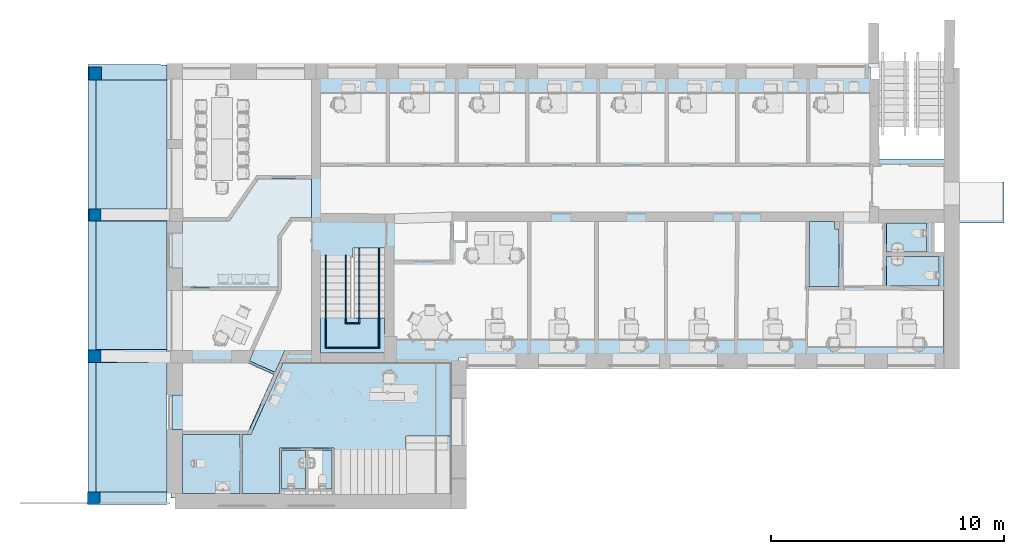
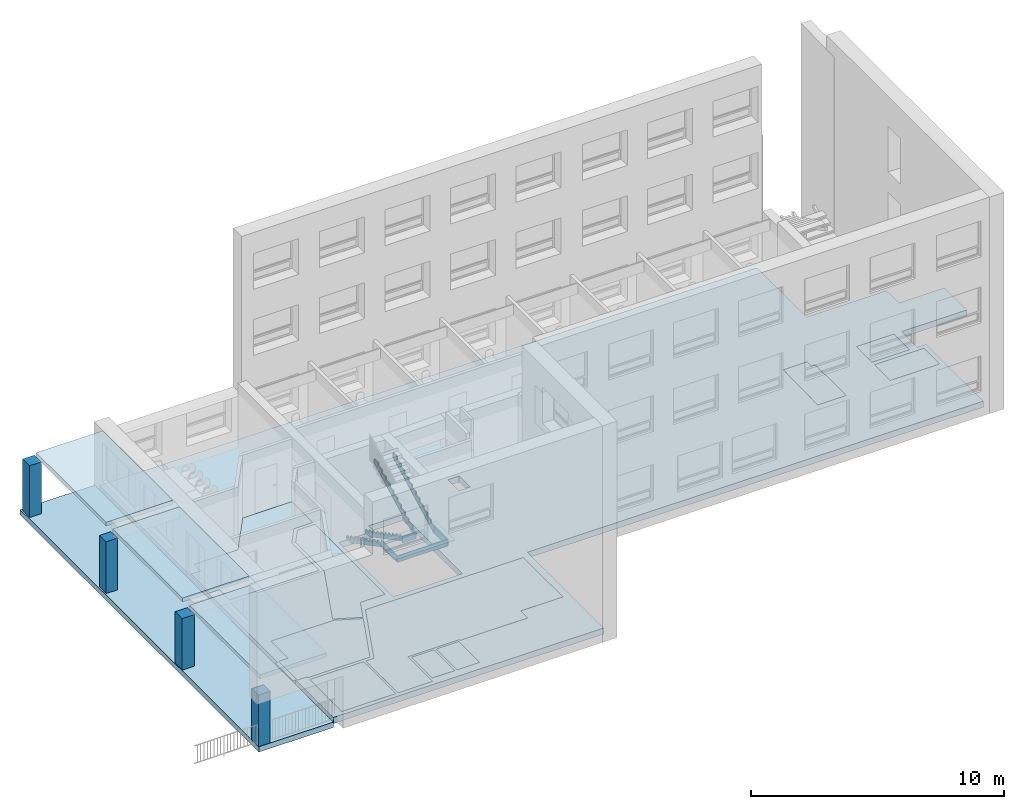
# One storey, part 1 of 25: 16 slabs, 8 members, 4 columns, 2 openings, 1 element without a shape of its own.
"""IFC2X3 building model written with IfcOpenShell, lengths in millimetres."""

from ifc_helpers import new_model, entity, si_unit, converted_unit, derived_unit, direction, frame, frame_2d, origin, origin_2d_with_axis, place, context, subcontext, project, spatial, polyline, rectangle, outline, extrude, faceted_brep, source, transform, mapped, material, layer, layer_set, layer_usage, type_object, type_shapes, element, aggregate, save


model = new_model("IFC2X3")

# Units and contexts
model_context = context("Model", 3, precision=0.01, world=origin(), true_north=direction((6.12303176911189e-17, 1.0)))
context_of_model = context(None, 3, precision=0.01, world=origin(), true_north=direction((6.12303176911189e-17, 1.0)))
body_context = subcontext(model_context, "Body", "Model", "MODEL_VIEW")
ifc_project = project(units=[si_unit("LENGTHUNIT", "METRE", prefix="MILLI"), si_unit("AREAUNIT", "SQUARE_METRE"), si_unit("VOLUMEUNIT", "CUBIC_METRE"), converted_unit("PLANEANGLEUNIT", "DEGREE", entity("IfcRatioMeasure", 0.0174532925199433), si_unit("PLANEANGLEUNIT", "RADIAN"), dimensions=[0, 0, 0, 0, 0, 0, 0]), si_unit("MASSUNIT", "GRAM", prefix="KILO"), derived_unit("MASSDENSITYUNIT", [(si_unit("MASSUNIT", "GRAM", prefix="KILO"), 1), (si_unit("LENGTHUNIT", "METRE"), -3)]), si_unit("TIMEUNIT", "SECOND"), si_unit("FREQUENCYUNIT", "HERTZ"), si_unit("THERMODYNAMICTEMPERATUREUNIT", "DEGREE_CELSIUS"), derived_unit("THERMALTRANSMITTANCEUNIT", [(si_unit("MASSUNIT", "GRAM", prefix="KILO"), 1), (si_unit("THERMODYNAMICTEMPERATUREUNIT", "KELVIN"), -1), (si_unit("TIMEUNIT", "SECOND"), -3)]), derived_unit("VOLUMETRICFLOWRATEUNIT", [(si_unit("LENGTHUNIT", "METRE"), 3), (si_unit("TIMEUNIT", "SECOND"), -1)]), si_unit("ELECTRICCURRENTUNIT", "AMPERE"), si_unit("ELECTRICVOLTAGEUNIT", "VOLT"), si_unit("POWERUNIT", "WATT"), si_unit("FORCEUNIT", "NEWTON", prefix="KILO"), si_unit("ILLUMINANCEUNIT", "LUX"), si_unit("LUMINOUSFLUXUNIT", "LUMEN"), si_unit("LUMINOUSINTENSITYUNIT", "CANDELA"), derived_unit("USERDEFINED", [(si_unit("MASSUNIT", "GRAM", prefix="KILO"), -1), (si_unit("LENGTHUNIT", "METRE"), -2), (si_unit("TIMEUNIT", "SECOND"), 3), (si_unit("LUMINOUSFLUXUNIT", "LUMEN"), 1)]), derived_unit("LINEARVELOCITYUNIT", [(si_unit("LENGTHUNIT", "METRE"), 1), (si_unit("TIMEUNIT", "SECOND"), -1)]), si_unit("PRESSUREUNIT", "PASCAL"), derived_unit("USERDEFINED", [(si_unit("LENGTHUNIT", "METRE"), -2), (si_unit("MASSUNIT", "GRAM", prefix="KILO"), 1), (si_unit("TIMEUNIT", "SECOND"), -2)])], contexts=[model_context, context_of_model])

# Site, building, storey
site_placement = place(None, frame((121442.264707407, 135347.995453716, -1800.0)))
site = spatial("IfcSite", under=ifc_project, at=site_placement, Name="Surface", CompositionType="ELEMENT")
building_placement = place(site_placement, origin())
building = spatial("IfcBuilding", under=site, at=building_placement, CompositionType="ELEMENT")
storey_placement = place(building_placement, frame((0.0, 0.0, 1800.0)))
storey = spatial("IfcBuildingStorey", under=building, at=storey_placement, Name="1 korrus", CompositionType="ELEMENT", Elevation=1800.00000000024)

# Columns
column_type_1 = type_object("IfcColumnType", Name="Columns 1", PredefinedType="COLUMN")
shared_shape_1 = source(origin(), body_context, "Body", "SweptSolid", [
    extrude(rectangle(XDim=544.202091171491, YDim=540.526809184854, at=origin_2d_with_axis()), frame((-118966.665413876, -115103.584491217, 1800.0), z_axis=(0.0, 0.0, 1.0), x_axis=(0.0, -1.0, 0.0)), (0.0, 0.0, 1.0), 2498.05502371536),
])
type_shapes(column_type_1, [shared_shape_1])
column_1_placement = place(storey_placement, frame((0.0, 0.0, -1800.0)))
element("IfcColumn", 1, at=column_1_placement, inside=storey, type_object=column_type_1, Name="Columns 1:Columns 1", ObjectType="Columns 1", context=body_context, shape_type="MappedRepresentation", body=[
    mapped(shared_shape_1, transform((0.0, 0.0, 0.0), scale=1.0)),
])
column_type_2 = type_object("IfcColumnType", Name="Columns 1", PredefinedType="COLUMN")
shared_shape_2 = source(origin(), body_context, "Body", "SweptSolid", [
    extrude(rectangle(XDim=519.026582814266, YDim=521.592940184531, at=frame_2d((-8.66862137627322e-12, 0.0), x_axis=(1.0, 0.0))), frame((-118976.132348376, -115090.996737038, 1800.0), z_axis=(0.0, 0.0, 1.0), x_axis=(0.0, -1.0, 0.0)), (0.0, 0.0, 1.0), 2497.23640200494),
])
type_shapes(column_type_2, [shared_shape_2])
column_2_placement = place(storey_placement, frame((0.0, -6090.0, -1800.0)))
element("IfcColumn", 2, at=column_2_placement, inside=storey, type_object=column_type_2, Name="Columns 2:Columns 1", ObjectType="Columns 1", context=body_context, shape_type="MappedRepresentation", body=[
    mapped(shared_shape_2, transform((0.0, 0.0, 0.0), scale=1.0)),
])
column_type_3 = type_object("IfcColumnType", Name="Columns 1", PredefinedType="COLUMN")
shared_shape_3 = source(origin(), body_context, "Body", "SweptSolid", [
    extrude(rectangle(XDim=552.437744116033, YDim=556.144458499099, at=origin_2d_with_axis()), frame((-118993.408107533, -115107.702317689, 1800.0), z_axis=(0.0, 0.0, 1.0), x_axis=(0.0, -1.0, 0.0)), (0.0, 0.0, 1.0), 2489.86816503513),
])
type_shapes(column_type_3, [shared_shape_3])
column_3_placement = place(storey_placement, frame((0.0, -12138.9751301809, -1800.0)))
element("IfcColumn", 3, at=column_3_placement, inside=storey, type_object=column_type_3, Name="Columns 3:Columns 1", ObjectType="Columns 1", context=body_context, shape_type="MappedRepresentation", body=[
    mapped(shared_shape_3, transform((0.0, 0.0, 0.0), scale=1.0)),
])
column_type_4 = type_object("IfcColumnType", Name="Columns 1", PredefinedType="COLUMN")
shared_shape_4 = source(origin(), body_context, "Body", "SweptSolid", [
    extrude(rectangle(XDim=526.540104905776, YDim=538.153777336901, at=frame_2d((8.66862137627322e-12, 1.73372427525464e-11), x_axis=(1.0, 0.0))), frame((-119036.07997881, -115086.980627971, 1800.0), z_axis=(0.0, 0.0, 1.0), x_axis=(0.0, -1.0, 0.0)), (0.0, 0.0, 1.0), 2489.86816503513),
])
type_shapes(column_type_4, [shared_shape_4])
column_4_placement = place(storey_placement, frame((0.0, -18258.9751301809, -1800.0)))
element("IfcColumn", 4, at=column_4_placement, inside=storey, type_object=column_type_4, Name="Columns 5:Columns 1", ObjectType="Columns 1", context=body_context, shape_type="MappedRepresentation", body=[
    mapped(shared_shape_4, transform((0.0, 0.0, 0.0), scale=1.0)),
])

# Stair, members
stair_placement = place(storey_placement, origin())
stair = element("IfcStair", 5, at=stair_placement, inside=storey, Name="Assembled Stair:Stair", ObjectType="Assembled Stair:190mm max riser 250mm kesktrepp", ShapeType="NOTDEFINED")
member_type = type_object("IfcMemberType", Name="Carriage:Carriage - 50 mm Width", PredefinedType="STRINGER")
member_1_placement = place(stair_placement, origin())
member_1 = element("IfcMember", 6, at=member_1_placement, type_object=member_type, Name="Assembled Stair:Stair:5508512 Stringer 1", ObjectType="Assembled Stair:190mm max riser 250mm kesktrepp", context=body_context, shape_type="SweptSolid", body=[
    extrude(outline(polyline([(1081.36001353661, -797.870241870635), (1440.61999938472, -797.870241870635), (1440.61999938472, -659.536908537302), (1140.61999938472, -659.536908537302), (1140.61999938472, -501.203575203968), (840.619999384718, -501.203575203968), (840.619999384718, -342.870241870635), (540.619999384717, -342.870241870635), (540.619999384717, -184.536908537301), (240.619999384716, -184.536908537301), (240.619999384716, -26.2035752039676), (-59.3800006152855, -26.2035752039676), (-59.3800006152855, 132.129758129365), (-359.380000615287, 132.129758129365), (-359.380000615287, 290.463091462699), (-659.380000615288, 290.463091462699), (-659.380000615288, 448.796424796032), (-959.380000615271, 448.796424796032), (-959.380000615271, 607.129758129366), (-1259.38000061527, 607.129758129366), (-1259.38000061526, 765.463091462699), (-1446.88000061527, 765.463091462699), (-1446.88000061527, 536.478654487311), (1081.36001353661, -797.870241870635)])), frame((-108243.017140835, -124357.351675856, 797.870241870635), z_axis=(1.0, 0.0, 0.0), x_axis=(0.0, 1.0, 0.0)), (0.0, 0.0, 1.0), 50.000000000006),
])
member_2_placement = place(stair_placement, origin())
member_2 = element("IfcMember", 7, at=member_2_placement, type_object=member_type, Name="Assembled Stair:Stair:5508512 Stringer 2", ObjectType="Assembled Stair:190mm max riser 250mm kesktrepp", context=body_context, shape_type="SweptSolid", body=[
    extrude(outline(polyline([(1009.35494941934, -755.308425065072), (1368.61493526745, -755.308425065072), (1368.61493526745, -616.975091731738), (1068.61493526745, -616.975091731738), (1068.61493526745, -458.641758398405), (768.614935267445, -458.641758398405), (768.614935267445, -300.308425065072), (468.614935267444, -300.308425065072), (468.614935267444, -141.975091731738), (168.614935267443, -141.975091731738), (168.614935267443, 16.3582416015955), (-131.385064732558, 16.3582416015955), (-131.385064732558, 174.691574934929), (-431.385064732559, 174.691574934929), (-431.385064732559, 333.024908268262), (-731.38506473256, 333.024908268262), (-731.38506473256, 491.358241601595), (-1031.38506473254, 491.358241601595), (-1031.38506473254, 649.691574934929), (-1331.38506473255, 649.691574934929), (-1331.38506473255, 709.555718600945), (-1381.65365476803, 506.612782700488), (1009.35494941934, -755.308425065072)])), frame((-109093.017140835, -124285.346611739, 755.308425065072), z_axis=(1.0, 0.0, 0.0), x_axis=(0.0, 1.0, 0.0)), (0.0, 0.0, 1.0), 50.000000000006),
])
member_3_placement = place(stair_placement, origin())
member_3 = element("IfcMember", 8, at=member_3_placement, type_object=member_type, Name="Assembled Stair:Stair:5508512 Stringer 3", ObjectType="Assembled Stair:190mm max riser 250mm kesktrepp", context=body_context, shape_type="SweptSolid", body=[
    extrude(outline(polyline([(678.287910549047, -1699.4892563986), (854.49456974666, -1699.4892563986), (854.49456974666, -1411.9892563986), (696.161236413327, -1411.9892563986), (696.161236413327, -1111.9892563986), (537.827903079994, -1111.9892563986), (537.827903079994, -811.989256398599), (379.494569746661, -811.989256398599), (379.494569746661, -511.989256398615), (221.161236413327, -511.989256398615), (221.161236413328, -211.989256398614), (62.8279030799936, -211.989256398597), (62.8279030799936, 88.0107436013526), (-95.5054302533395, 88.0107436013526), (-95.5054302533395, 388.010743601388), (-253.838763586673, 388.010743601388), (-253.838763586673, 688.010743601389), (-412.172096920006, 688.010743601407), (-412.172096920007, 988.010743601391), (-570.50543025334, 988.010743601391), (-570.50543025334, 1288.01074360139), (-728.838763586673, 1288.01074360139), (-728.838763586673, 1550.51074360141), (-1030.25088915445, 1550.51074360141), (-1030.25088915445, 1537.74215356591), (678.287910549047, -1699.4892563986)])), frame((-107657.362495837, -124303.72093287, 2292.17209692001), z_axis=(1.0, 0.0, 0.0), x_axis=(0.0, 0.0, 1.0)), (0.0, 0.0, 1.0), 50.000000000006),
])
member_4_placement = place(stair_placement, origin())
member_4 = element("IfcMember", 9, at=member_4_placement, type_object=member_type, Name="Assembled Stair:Stair:5508512 Stringer 4", ObjectType="Assembled Stair:190mm max riser 250mm kesktrepp", context=body_context, shape_type="SweptSolid", body=[
    extrude(outline(polyline([(635.360790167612, -1637.46341859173), (811.567449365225, -1637.46341859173), (811.567449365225, -1349.96341859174), (653.234116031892, -1349.96341859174), (653.234116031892, -1049.96341859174), (494.900782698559, -1049.96341859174), (494.900782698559, -749.963418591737), (336.567449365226, -749.963418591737), (336.567449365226, -449.963418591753), (178.234116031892, -449.963418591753), (178.234116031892, -149.963418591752), (19.9007826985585, -149.963418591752), (19.9007826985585, 150.036581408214), (-138.432550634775, 150.036581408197), (-138.432550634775, 450.03658140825), (-296.765883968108, 450.03658140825), (-296.765883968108, 750.036581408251), (-455.099217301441, 750.036581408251), (-455.099217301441, 1050.03658140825), (-613.432550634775, 1050.03658140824), (-613.432550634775, 1350.03658140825), (-771.765883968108, 1350.03658140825), (-771.765883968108, 1674.42721764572), (-1073.17800953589, 1599.76799137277), (635.360790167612, -1637.46341859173)])), frame((-106807.362495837, -124241.695095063, 2335.09921730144), z_axis=(1.0, 0.0, 0.0), x_axis=(0.0, 0.0, 1.0)), (0.0, 0.0, 1.0), 50.0000000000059),
])
member_5_placement = place(stair_placement, origin())
member_5 = element("IfcMember", 10, at=member_5_placement, type_object=member_type, Name="Assembled Stair:Stair:5508512 Stringer 5", ObjectType="Assembled Stair:190mm max riser 250mm kesktrepp", context=body_context, shape_type="SweptSolid", body=[
    extrude(rectangle(XDim=50.000000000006, YDim=585.654644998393, at=frame_2d((-8.66329230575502e-12, 0.0), x_axis=(1.0, 0.0))), frame((-107950.189818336, -125829.231676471, 1261.92120776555), z_axis=(0.0, 0.0, 1.0), x_axis=(0.0, 1.0, 0.0)), (0.0, 0.0, 1.0), 301.41212556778),
])
member_6_placement = place(stair_placement, frame((-106807.362495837, -126909.16957742, 1261.92120776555)))
member_6 = element("IfcMember", 11, at=member_6_placement, type_object=member_type, Name="Assembled Stair:Stair:5508512 Stringer 6", ObjectType="Assembled Stair:190mm max riser 250mm kesktrepp", context=body_context, shape_type="Brep", body=[
    faceted_brep([(0.0, 1067.70649098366, 0.0), (0.0, 50.0, 0.0), (0.0, 50.0, 301.41212556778), (0.0, 993.04726471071, 301.41212556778), (50.0, 1067.70649098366, 0.0), (50.0, 0.0, 0.0), (50.0, 993.04726471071, 301.41212556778), (50.0, 0.0, 301.41212556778)], [[[0, 1, 2, 3]], [[1, 0, 4, 5]], [[5, 4, 6, 7]], [[4, 0, 3, 6]], [[3, 2, 7, 6]], [[1, 5, 7, 2]]]),
])
member_7_placement = place(stair_placement, frame((-109093.017140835, -126909.16957742, 1261.92120776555)))
member_7 = element("IfcMember", 12, at=member_7_placement, type_object=member_type, Name="Assembled Stair:Stair:5508512 Stringer 7", ObjectType="Assembled Stair:190mm max riser 250mm kesktrepp", context=body_context, shape_type="Brep", body=[
    faceted_brep([(50.0, 50.0, 0.0), (50.0, 1242.16931091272, 0.0), (50.0, 1292.4379009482, 202.94293590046), (50.0, 1292.4379009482, 301.41212556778), (50.0, 50.0, 301.41212556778), (0.0, 0.0, 0.0), (0.0, 1242.16931091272, 0.0), (0.0, 0.0, 301.41212556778), (0.0, 1292.4379009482, 301.41212556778), (0.0, 1292.4379009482, 202.94293590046)], [[[0, 1, 2, 3, 4]], [[1, 0, 5, 6]], [[6, 5, 7, 8, 9]], [[1, 6, 9, 2]], [[3, 8, 7, 4]], [[8, 3, 2, 9]], [[5, 0, 4, 7]]]),
])
member_8_placement = place(stair_placement, origin())
member_8 = element("IfcMember", 13, at=member_8_placement, type_object=member_type, Name="Assembled Stair:Stair:5508512 Stringer 8", ObjectType="Assembled Stair:190mm max riser 250mm kesktrepp", context=body_context, shape_type="SweptSolid", body=[
    extrude(outline(polyline([(772.745610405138, -808.100949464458), (843.456288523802, -808.100949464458), (-808.100949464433, 843.456288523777), (-808.100949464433, 772.745610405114), (772.745610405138, -808.100949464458)])), frame((-107925.189818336, -126884.16957742, 1261.92120776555), z_axis=(0.0, 0.0, 1.0), x_axis=(-0.707106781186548, -0.707106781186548, 0.0)), (0.0, 0.0, 1.0), 301.41212556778),
])

# Slab
ifc_material_1 = material(Name="Concrete - Cast In Situ")
ifc_layer_1 = layer(ifc_material_1, 260.0)
ifc_layer_set_1 = layer_set([ifc_layer_1], Name="Floor:Generic 260mm 2")
ifc_layer_usage_1 = layer_usage(ifc_layer_set_1, "AXIS3", "POSITIVE", 0.0)
slab_1_placement = place(storey_placement, origin())
element("IfcSlab", 14, at=slab_1_placement, inside=storey, material=ifc_layer_usage_1, Name="Floor:Generic 260mm 2", ObjectType="Floor:Generic 260mm 2", PredefinedType="FLOOR", context=body_context, shape_type="SweptSolid", body=[
    extrude(outline(polyline([(-9448.72751674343, -1705.19344001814), (9458.33310729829, -1705.19344001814), (9439.12192618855, 1705.19344001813), (-9448.72751674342, 1705.19344001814), (-9448.72751674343, -1705.19344001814)])), frame((-117584.537838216, -124169.267936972, 0.0), z_axis=(0.0, 0.0, -1.0), x_axis=(0.0, 1.0, 0.0)), (0.0, 0.0, 1.0), 260.0),
])

# Slab, openings
ifc_material_2 = material(Name="EST. Linoleum")
ifc_layer_2 = layer(ifc_material_2, 3.0)
ifc_layer_3 = layer(ifc_material_1, 70.0)
ifc_layer_4 = layer(ifc_material_1, 220.0)
ifc_layer_set_2 = layer_set([ifc_layer_2, ifc_layer_3, ifc_layer_4], Name="Floor:Paneel 220 +80 tasandus")
ifc_layer_usage_2 = layer_usage(ifc_layer_set_2, "AXIS3", "POSITIVE", 0.0)
slab_2_placement = place(storey_placement, frame((-115841.776610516, -133344.099932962, -293.0)))
slab_2 = element("IfcSlab", 15, at=slab_2_placement, inside=storey, material=ifc_layer_usage_2, Name="Floor:Paneel 220 +80 tasandus", ObjectType="Floor:Paneel 220 +80 tasandus", PredefinedType="FLOOR", context=body_context, shape_type="SweptSolid", body=[
    extrude(outline(polyline([(-12218.1018847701, 9251.09041031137), (-12218.1018847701, 5317.72005377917), (-15867.8981152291, 5317.72005377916), (-15867.8981152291, 4337.72005377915), (-17947.898115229, 4337.72005377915), (-17947.898115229, 2568.90958968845), (-14967.898115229, 2568.90958968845), (-14967.898115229, 1326.44395784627), (-15367.8981152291, 1326.44395784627), (-15367.898115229, -3211.09041031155), (5466.5913892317, -3211.09041031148), (5466.59138923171, -9251.09041031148), (17832.101884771, -9251.09041031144), (17832.101884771, -6263.4550477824), (17947.898115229, -6263.4550477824), (17947.898115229, -4853.45504778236), (17831.8981152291, -4853.45504778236), (17831.898115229, 9251.09041031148), (-12218.1018847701, 9251.09041031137)])), frame((17947.898115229, 9251.09041031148, 293.0), z_axis=(0.0, 0.0, -1.0), x_axis=(-1.0, 0.0, 0.0)), (0.0, 0.0, 1.0), 293.0),
])
opening_1_placement = place(storey_placement, frame((-115841.776610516, -133344.099932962, -293.0)))
element("IfcOpeningElement", 16, at=opening_1_placement, cuts=slab_2, ObjectType="Opening", context=body_context, shape_type="SweptSolid", body=[
    extrude(rectangle(XDim=859.999999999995, YDim=505.000000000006, at=frame_2d((5436.64166217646, 2261.05734089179), x_axis=(0.0, -1.0))), frame((17947.898115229, 9251.09041031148, 293.0), z_axis=(0.0, 0.0, -1.0), x_axis=(-1.0, 0.0, 0.0)), (0.0, 0.0, 1.0), 293.0),
])
opening_2_placement = place(slab_2_placement, frame((7753.90276749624, 8617.49704534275, 293.0)))
element("IfcOpeningElement", 17, at=opening_2_placement, cuts=slab_2, Name="Floor:Paneel 220 +80 tasandus:2", ObjectType="Opening", context=body_context, shape_type="SweptSolid", body=[
    extrude(outline(polyline([(-2134.66302183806, -1749.75463375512), (2573.86520873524, -1749.75463375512), (2573.86520873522, 1050.24536624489), (2573.86520873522, 1405.14329781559), (-1726.13479126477, 1405.14329781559), (-1726.13479126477, -180.511347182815), (-2134.66302183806, -180.511347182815), (-2134.66302183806, -1749.75463375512)])), frame((0.0, 0.0, 0.0), z_axis=(0.0, 0.0, -1.0), x_axis=(0.0, -1.0, 0.0)), (0.0, 0.0, 1.0), 293.0),
])

# Slab
ifc_material_3 = material(Name="Metalli - teräs, sinkitty")
slab_3_placement = place(stair_placement, origin())
slab_3 = element("IfcSlab", 18, at=slab_3_placement, material=ifc_material_3, Name="Assembled Stair:Stair:5508512 Landing 1", ObjectType="Assembled Stair:190mm max riser 250mm kesktrepp", PredefinedType="LANDING", context=body_context, shape_type="SweptSolid", body=[
    extrude(rectangle(XDim=2735.65464499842, YDim=1504.93790094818, at=frame_2d((0.0, 250.822983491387), x_axis=(1.0, 0.0))), frame((-107925.189818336, -126105.877643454, 1563.33333333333), z_axis=(0.0, 0.0, 1.0), x_axis=(-1.0, 0.0, 0.0)), (0.0, 0.0, 1.0), 19.9999999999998),
])

aggregate(stair, [slab_3, member_1, member_2, member_3, member_4, member_5, member_6, member_7, member_8])

# Slabs
ifc_material_4 = material(Name="Polyethylene, High Density")
ifc_layer_5 = layer(ifc_material_4, 200.0)
ifc_layer_set_3 = layer_set([ifc_layer_5], Name="Floor:200 soojustus")
ifc_layer_usage_3 = layer_usage(ifc_layer_set_3, "AXIS3", "POSITIVE", 0.0)
slab_4_placement = place(storey_placement, origin())
element("IfcSlab", 19, at=slab_4_placement, inside=storey, material=ifc_layer_usage_3, Name="Floor:200 soojustus", ObjectType="Floor:200 soojustus", PredefinedType="FLOOR", context=body_context, shape_type="SweptSolid", body=[
    extrude(rectangle(XDim=5543.49357537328, YDim=3049.99999999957, at=frame_2d((0.0, -8.64019966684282e-12), x_axis=(1.0, 0.0))), frame((-117410.776610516, -118147.432324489, 3025.0), z_axis=(0.0, 0.0, -1.0), x_axis=(0.0, 1.0, 0.0)), (0.0, 0.0, 1.0), 200.0),
])
ifc_layer_usage_4 = layer_usage(ifc_layer_set_3, "AXIS3", "POSITIVE", 0.0)
slab_5_placement = place(storey_placement, frame((-118935.776610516, -133085.026345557, 2825.0)))
element("IfcSlab", 20, at=slab_5_placement, inside=storey, material=ifc_layer_usage_4, Name="Floor:200 soojustus", ObjectType="Floor:200 soojustus", PredefinedType="FLOOR", context=body_context, shape_type="SweptSolid", body=[
    extrude(rectangle(XDim=5519.25412753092, YDim=3049.99999999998, at=frame_2d((0.0, 3062.6310947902), x_axis=(0.0, -1.0))), frame((1525.0, 5822.25815855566, 200.0), z_axis=(0.0, 0.0, -1.0), x_axis=(-1.0, 0.0, 0.0)), (0.0, 0.0, 1.0), 200.0),
])
slab_6_placement = place(storey_placement, frame((-118935.776610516, -133085.026345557, 2825.0)))
element("IfcSlab", 21, at=slab_6_placement, inside=storey, material=ifc_layer_usage_4, Name="Floor:200 soojustus:2", ObjectType="Floor:200 soojustus", PredefinedType="FLOOR", context=body_context, shape_type="SweptSolid", body=[
    extrude(rectangle(XDim=5562.13002562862, YDim=3049.99999999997, at=frame_2d((0.0, -3041.19314574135), x_axis=(0.0, -1.0))), frame((1525.0, 5822.25815855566, 200.0), z_axis=(0.0, 0.0, -1.0), x_axis=(-1.0, 0.0, 0.0)), (0.0, 0.0, 1.0), 200.0),
])
ifc_material_5 = material(Name="EST. Põrand. Plaatkate")
ifc_layer_6 = layer(ifc_material_5, 3.0)
ifc_layer_set_4 = layer_set([ifc_layer_6], Name="Floor:Keraamiline plaat 200x200")
ifc_layer_usage_5 = layer_usage(ifc_layer_set_4, "AXIS3", "POSITIVE", 0.0)
slab_7_placement = place(storey_placement, frame((-115225.776610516, -133150.92716597, -2.0)))
element("IfcSlab", 22, at=slab_7_placement, inside=storey, material=ifc_layer_usage_5, Name="Floor:Keraamiline plaat 200x200", ObjectType="Floor:Keraamiline plaat 200x200", PredefinedType="FLOOR", context=body_context, shape_type="SweptSolid", body=[
    extrude(rectangle(XDim=2544.46259553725, YDim=2466.76597489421, at=frame_2d((1975.0113358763, 0.0), x_axis=(0.0, -1.0))), frame((3208.3943233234, 1272.23129776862, 3.0), z_axis=(0.0, 0.0, -1.0), x_axis=(-1.0, 0.0, 0.0)), (0.0, 0.0, 1.0), 3.00000000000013),
])
slab_8_placement = place(storey_placement, frame((-115225.776610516, -133150.92716597, -2.0)))
element("IfcSlab", 23, at=slab_8_placement, inside=storey, material=ifc_layer_usage_5, Name="Floor:Keraamiline plaat 200x200:2", ObjectType="Floor:Keraamiline plaat 200x200", PredefinedType="FLOOR", context=body_context, shape_type="SweptSolid", body=[
    extrude(rectangle(XDim=1030.00684598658, YDim=1657.5, at=frame_2d((-1563.3846294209, -235.981297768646), x_axis=(-1.0, 0.0))), frame((3208.3943233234, 1272.23129776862, 3.0), z_axis=(0.0, 0.0, -1.0), x_axis=(-1.0, 0.0, 0.0)), (0.0, 0.0, 1.0), 3.00000000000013),
])
slab_9_placement = place(storey_placement, frame((-115225.776610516, -133150.92716597, -2.0)))
element("IfcSlab", 24, at=slab_9_placement, inside=storey, material=ifc_layer_usage_5, Name="Floor:Keraamiline plaat 200x200:3", ObjectType="Floor:Keraamiline plaat 200x200", PredefinedType="FLOOR", context=body_context, shape_type="SweptSolid", body=[
    extrude(rectangle(XDim=1657.5, YDim=1030.00627090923, at=frame_2d((-2693.3911878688, -235.981297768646), x_axis=(0.0, 1.0))), frame((3208.3943233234, 1272.23129776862, 3.0), z_axis=(0.0, 0.0, -1.0), x_axis=(-1.0, 0.0, 0.0)), (0.0, 0.0, 1.0), 3.00000000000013),
])
ifc_layer_usage_6 = layer_usage(ifc_layer_set_4, "AXIS3", "POSITIVE", 0.0)
slab_10_placement = place(storey_placement, frame((-85001.2869804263, -124219.821119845, -2.0)))
element("IfcSlab", 25, at=slab_10_placement, inside=storey, material=ifc_layer_usage_6, Name="Floor:Keraamiline plaat 200x200", ObjectType="Floor:Keraamiline plaat 200x200", PredefinedType="FLOOR", context=body_context, shape_type="SweptSolid", body=[
    extrude(rectangle(XDim=1242.46563184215, YDim=1717.80660036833, at=frame_2d((275.0, 726.627777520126), x_axis=(0.0, -1.0))), frame((1133.90330018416, 1347.8605934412, 3.0), z_axis=(0.0, 0.0, -1.0), x_axis=(-1.0, 0.0, 0.0)), (0.0, 0.0, 1.0), 3.00000000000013),
])
slab_11_placement = place(storey_placement, frame((-85001.2869804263, -124219.821119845, -2.0)))
element("IfcSlab", 26, at=slab_11_placement, inside=storey, material=ifc_layer_usage_6, Name="Floor:Keraamiline plaat 200x200:2", ObjectType="Floor:Keraamiline plaat 200x200", PredefinedType="FLOOR", context=body_context, shape_type="SweptSolid", body=[
    extrude(rectangle(XDim=1253.25555504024, YDim=2267.80660036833, at=frame_2d((0.0, -721.23281592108), x_axis=(0.0, -1.0))), frame((1133.90330018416, 1347.8605934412, 3.0), z_axis=(0.0, 0.0, -1.0), x_axis=(-1.0, 0.0, 0.0)), (0.0, 0.0, 1.0), 3.00000000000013),
])
ifc_layer_usage_7 = layer_usage(ifc_layer_set_4, "AXIS3", "POSITIVE", 0.0)
slab_12_placement = place(storey_placement, origin())
element("IfcSlab", 27, at=slab_12_placement, inside=storey, material=ifc_layer_usage_7, Name="Floor:Keraamiline plaat 200x200", ObjectType="Floor:Keraamiline plaat 200x200", PredefinedType="FLOOR", context=body_context, shape_type="SweptSolid", body=[
    extrude(outline(polyline([(-488.728102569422, -1748.41326897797), (808.506751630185, -1748.41326897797), (776.298434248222, 1036.70663448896), (-303.674490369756, 1036.70663448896), (-303.674490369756, 711.706634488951), (-488.728102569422, 711.706634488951), (-488.728102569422, -1748.41326897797)])), frame((-87522.0544754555, -122500.766503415, 1.0), z_axis=(0.0, 0.0, -1.0), x_axis=(-1.0, 0.0, 0.0)), (0.0, 0.0, 1.0), 3.00000000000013),
])
ifc_material_6 = material(Name="Plaadi muster")
ifc_layer_7 = layer(ifc_material_6, 3.0)
ifc_layer_set_5 = layer_set([ifc_layer_7], Name="Floor:Keraamiline plaat 600X300")
ifc_layer_usage_8 = layer_usage(ifc_layer_set_5, "AXIS3", "POSITIVE", 0.0)
slab_13_placement = place(storey_placement, origin())
element("IfcSlab", 28, at=slab_13_placement, inside=storey, material=ifc_layer_usage_8, Name="Floor:Keraamiline plaat 600X300", ObjectType="Floor:Keraamiline plaat 600X300", PredefinedType="FLOOR", context=body_context, shape_type="SweptSolid", body=[
    extrude(outline(polyline([(-1544.46656953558, -2060.10790097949), (-54.4665695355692, -2060.10790097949), (-54.4665695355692, -1619.10790097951), (1310.68499863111, -1619.10790097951), (1310.68499863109, 1214.96524963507), (1326.22970742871, 1221.9822493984), (832.51215063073, 2315.71118021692), (814.677958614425, 2307.66069031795), (812.009603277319, 2313.57187858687), (-1604.46656953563, 1222.75615772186), (-1604.46656953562, -1619.10790097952), (-1544.46656953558, -1619.10790097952), (-1544.46656953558, -2060.10790097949)])), frame((-113606.668709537, -128851.998000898, 1.0), z_axis=(0.0, 0.0, -1.0), x_axis=(0.0, 1.0, 0.0)), (0.0, 0.0, 1.0), 3.00000000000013),
])
ifc_layer_usage_9 = layer_usage(ifc_layer_set_5, "AXIS3", "POSITIVE", 0.0)
slab_14_placement = place(storey_placement, origin())
element("IfcSlab", 29, at=slab_14_placement, inside=storey, material=ifc_layer_usage_9, Name="Floor:Keraamiline plaat 600X300", ObjectType="Floor:Keraamiline plaat 600X300", PredefinedType="FLOOR", context=body_context, shape_type="SweptSolid", body=[
    extrude(outline(polyline([(-1089.17213009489, 2154.33570496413), (-1089.17213009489, -3415.89875101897), (-297.088577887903, -3415.89875101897), (196.027610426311, -2711.65584958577), (196.027610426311, -452.335379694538), (1571.37956071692, 2594.47184313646), (467.779111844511, 3092.64547825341), (44.2189446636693, 2154.33570496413), (-1089.17213009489, 2154.33570496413)])), frame((-110782.18927093, -124846.598425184, 1.0), z_axis=(0.0, 0.0, 1.0), x_axis=(-1.0, 0.0, 0.0)), (0.0, 0.0, -1.0), 3.00000000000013),
])
ifc_layer_usage_10 = layer_usage(ifc_layer_set_5, "AXIS3", "POSITIVE", 0.0)
slab_15_placement = place(storey_placement, origin())
element("IfcSlab", 30, at=slab_15_placement, inside=storey, material=ifc_layer_usage_10, Name="Floor:Keraamiline plaat 600X300", ObjectType="Floor:Keraamiline plaat 600X300", PredefinedType="FLOOR", context=body_context, shape_type="SweptSolid", body=[
    extrude(outline(polyline([(-2416.61719800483, -3767.90629368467), (127.84539753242, -3767.90629368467), (127.84539753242, -3395.94475176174), (3193.46299949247, -2012.10165328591), (3193.46299949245, 5200.6344574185), (53.462999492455, 5200.6344574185), (53.462999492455, 3267.07539954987), (-506.537000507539, 3267.07539954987), (-506.537000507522, 182.116378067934), (-451.61719800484, 182.116378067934), (-451.61719800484, -2177.89673882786), (-2416.61719800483, -2177.89673882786), (-2416.61719800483, -3767.90629368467)])), frame((-108891.104341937, -130734.309967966, 1.0), z_axis=(0.0, 0.0, -1.0), x_axis=(0.0, 1.0, 0.0)), (0.0, 0.0, 1.0), 3.00000000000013),
])
ifc_layer_usage_11 = layer_usage(ifc_layer_set_5, "AXIS3", "POSITIVE", 0.0)
slab_16_placement = place(storey_placement, origin())
element("IfcSlab", 31, at=slab_16_placement, inside=storey, material=ifc_layer_usage_11, Name="Floor:Keraamiline plaat 600X300", ObjectType="Floor:Keraamiline plaat 600X300", PredefinedType="FLOOR", context=body_context, shape_type="SweptSolid", body=[
    extrude(outline(polyline([(-1438.50174162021, -2623.57834498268), (51.498258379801, -2623.57834498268), (51.4982583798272, -2172.57834498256), (573.194264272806, -2172.57834498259), (573.194264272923, -164.670501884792), (2383.19426427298, 1091.80303912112), (2383.19426427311, 3350.18112469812), (727.26315464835, 3350.18112469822), (727.263154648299, 2480.01251490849), (-79.684928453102, 1914.98138417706), (-2256.80573572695, 1914.98138417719), (-2256.80573572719, -2172.57834498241), (-1438.50174162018, -2172.57834498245), (-1438.50174162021, -2623.57834498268)])), frame((-113043.198265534, -122007.962828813, 1.0), z_axis=(0.0, 0.0, -1.0), x_axis=(0.0, 1.0, 0.0)), (0.0, 0.0, 1.0), 3.00000000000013),
])

save(model, "model.ifc")
